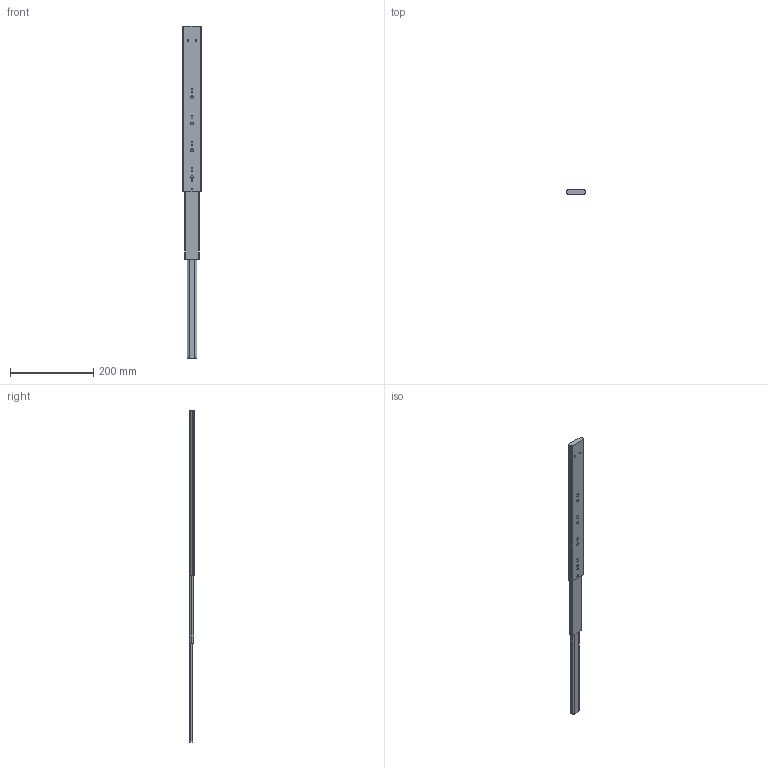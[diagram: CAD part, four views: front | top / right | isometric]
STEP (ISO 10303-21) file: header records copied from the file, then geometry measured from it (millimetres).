
FILE_DESCRIPTION (( 'STEP AP203' ), '1' );
FILE_NAME ('4587116H(嶺).STEP', '2020-02-13T09:02:19', ( 'ZZG' ), ( 'Microsoft' ), 'SwSTEP 2.0', 'SolidWorks 2012', '' );
FILE_SCHEMA (( 'CONFIG_CONTROL_DESIGN' ));
Length unit declared in the file: millimetre
Products named in the file (1): 4587116H(嶺)
Bounding box: 45.57 x 12.7 x 798.7 mm (x, y, z)
Volume: 299163.6 mm3; surface area: 71544.8 mm2
Topology: 1 solids, 1 shells, 219 faces, 585 edges, 388 vertices
Faces by surface type: cylinder 110, plane 99, cone 6, bspline 4
Entity records: 7127 total; most frequent: CARTESIAN_POINT 1394, DIRECTION 1231, ORIENTED_EDGE 1170, EDGE_CURVE 585, AXIS2_PLACEMENT_3D 450, VERTEX_POINT 388, VECTOR 331, LINE 331
